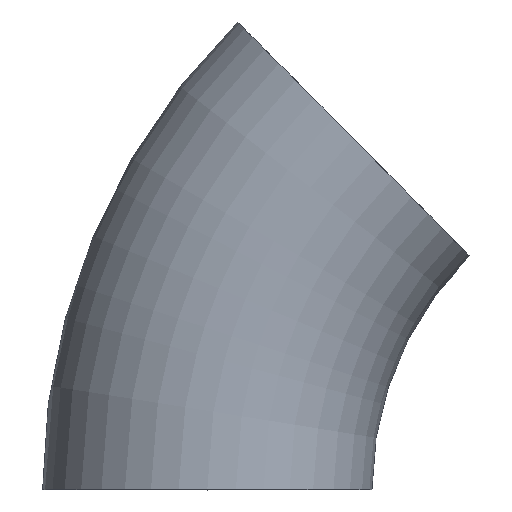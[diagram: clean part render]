
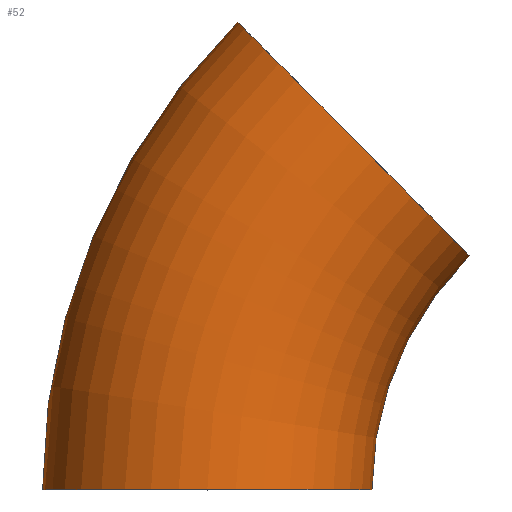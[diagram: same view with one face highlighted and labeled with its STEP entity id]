
A CAD part, top view. The second image highlights one B-rep face of the part: STEP entity #52.
In plain terms, the highlighted toroidal (fillet/blend) face has major radius 76.2 mm and minor radius 25.4 mm.
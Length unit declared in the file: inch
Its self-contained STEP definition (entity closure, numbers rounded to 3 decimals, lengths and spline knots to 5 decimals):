
#3 = ORIENTED_EDGE ( 'NONE', *, *, #248, .F. ) ;
#10 = DIRECTION ( 'NONE',  ( 0., 0., 1. ) ) ;
#11 = DIRECTION ( 'NONE',  ( 1., 0., 0. ) ) ;
#12 = CIRCLE ( 'NONE', #153, 1. ) ;
#21 = CARTESIAN_POINT ( 'NONE',  ( 0., 0., 0. ) ) ;
#22 = CARTESIAN_POINT ( 'NONE',  ( -2.11243, 2.13018, 0. ) ) ;
#25 = DIRECTION ( 'NONE',  ( 0.71, 0.704, 0. ) ) ;
#26 = DIRECTION ( 'NONE',  ( 0., 0., 1. ) ) ;
#29 = ORIENTED_EDGE ( 'NONE', *, *, #242, .T. ) ;
#32 = VERTEX_POINT ( 'NONE', #109 ) ;
#33 = CARTESIAN_POINT ( 'NONE',  ( -2.81657, 2.84024, 0. ) ) ;
#35 = ORIENTED_EDGE ( 'NONE', *, *, #230, .T. ) ;
#39 = VERTEX_POINT ( 'NONE', #114 ) ;
#51 = CIRCLE ( 'NONE', #156, 1. ) ;
#52 = ADVANCED_FACE ( 'NONE', ( #241 ), #233, .T. ) ;
#56 = ORIENTED_EDGE ( 'NONE', *, *, #222, .F. ) ;
#57 = CIRCLE ( 'NONE', #154, 4. ) ;
#66 = CARTESIAN_POINT ( 'NONE',  ( 0., 0., 0. ) ) ;
#68 = DIRECTION ( 'NONE',  ( 1., 0., 0. ) ) ;
#71 = CARTESIAN_POINT ( 'NONE',  ( -4., 0., 0. ) ) ;
#104 = VERTEX_POINT ( 'NONE', #71 ) ;
#109 = CARTESIAN_POINT ( 'NONE',  ( -1.40828, 1.42012, 0. ) ) ;
#114 = CARTESIAN_POINT ( 'NONE',  ( -2., 0., 0. ) ) ;
#115 = DIRECTION ( 'NONE',  ( 0., 0., 1. ) ) ;
#150 = AXIS2_PLACEMENT_3D ( 'NONE', #229, #225, #217 ) ;
#153 = AXIS2_PLACEMENT_3D ( 'NONE', #243, #240, #237 ) ;
#154 = AXIS2_PLACEMENT_3D ( 'NONE', #21, #10, #11 ) ;
#156 = AXIS2_PLACEMENT_3D ( 'NONE', #22, #25, #26 ) ;
#167 = CIRCLE ( 'NONE', #150, 2. ) ;
#190 = EDGE_LOOP ( 'NONE', ( #56, #35, #29, #3 ) ) ;
#198 = AXIS2_PLACEMENT_3D ( 'NONE', #66, #115, #68 ) ;
#217 = DIRECTION ( 'NONE',  ( 1., 0., 0. ) ) ;
#222 = EDGE_CURVE ( 'NONE', #239, #32, #51, .T. ) ;
#225 = DIRECTION ( 'NONE',  ( 0., 0., 1. ) ) ;
#229 = CARTESIAN_POINT ( 'NONE',  ( 0., 0., 0. ) ) ;
#230 = EDGE_CURVE ( 'NONE', #239, #104, #57, .T. ) ;
#233 = TOROIDAL_SURFACE ( 'NONE', #198, 3., 1. ) ;
#237 = DIRECTION ( 'NONE',  ( 0., 0., 1. ) ) ;
#239 = VERTEX_POINT ( 'NONE', #33 ) ;
#240 = DIRECTION ( 'NONE',  ( 0., 1., 0. ) ) ;
#241 = FACE_OUTER_BOUND ( 'NONE', #190, .T. ) ;
#242 = EDGE_CURVE ( 'NONE', #104, #39, #12, .T. ) ;
#243 = CARTESIAN_POINT ( 'NONE',  ( -3., 0., 0. ) ) ;
#248 = EDGE_CURVE ( 'NONE', #32, #39, #167, .T. ) ;
